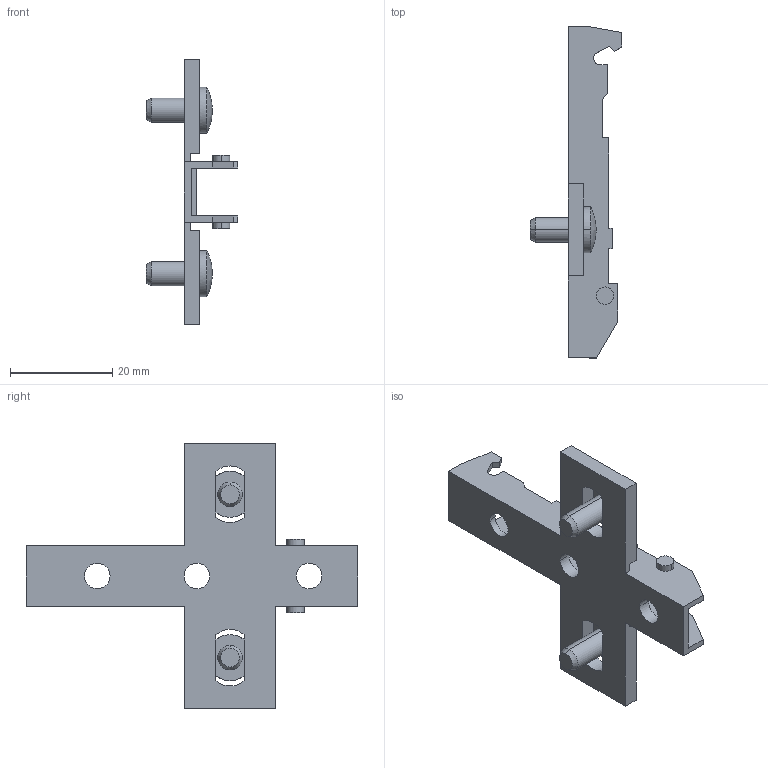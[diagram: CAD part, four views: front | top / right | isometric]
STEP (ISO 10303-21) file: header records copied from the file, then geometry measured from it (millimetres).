
FILE_DESCRIPTION (( 'STEP AP214' ), '1' );
FILE_NAME ('Eco Kreuzmontageplatte LR37_32_Euro_vorm. 10,5mm_H00.step', '2010-11-18T10:06:34', ( 'grass' ), ( '' ), 'SwSTEP 2.0', 'SolidWorks 2010', '' );
FILE_SCHEMA (( 'AUTOMOTIVE_DESIGN' ));
Length unit declared in the file: millimetre
Products named in the file (1): Eco Kreuzmontageplatte LR37_32_Euro_vorm. 10,5mm_H00
Bounding box: 18 x 65 x 52 mm (x, y, z)
Volume: 4637.7 mm3; surface area: 5800.5 mm2
Topology: 1 solids, 1 shells, 104 faces, 292 edges, 190 vertices
Faces by surface type: plane 70, cylinder 26, cone 4, sphere 4
Entity records: 3394 total; most frequent: CARTESIAN_POINT 587, ORIENTED_EDGE 584, DIRECTION 570, EDGE_CURVE 292, VECTOR 224, LINE 224, VERTEX_POINT 190, AXIS2_PLACEMENT_3D 173
